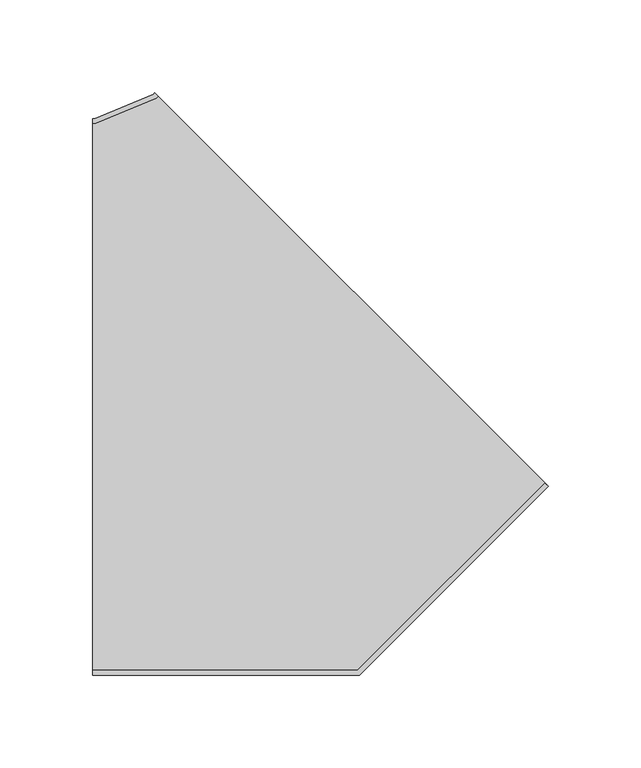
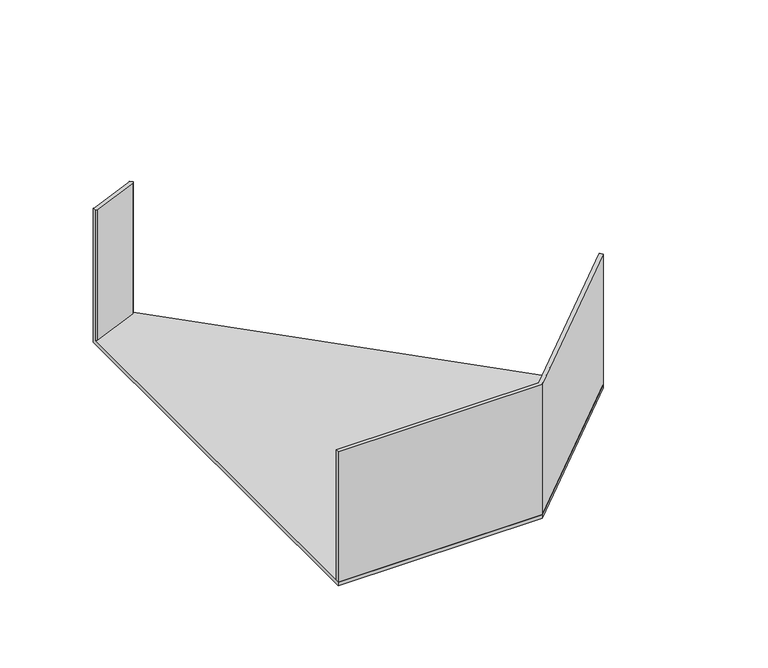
"""IFC4 building model written with IfcOpenShell, lengths in millimetres: cable carrier fitting geometry, BAKS_Horizontal bend : KKJ/KKMJ_H100."""

from ifc_helpers import new_model, si_unit, frame, origin, place, context, project, spatial, polyline, outline, extrude, faceted_brep, source, transform, mapped, element, save


def cable_carrier_fitting_985dcf24(model_context):
    return source(origin(), model_context, "Body", "SolidModel", [
        faceted_brep([(-81.7716447, 147.46, 50.0), (-81.7716447, 150.0, 50.0), (-81.7716447, 150.0, -50.0), (-81.7716447, -150.0, -50.0), (-81.7716447, -150.0, -47.46), (-81.7716447, 147.46, -47.46), (-80.2664073, 147.46, 50.0), (-47.5130451, 161.0268868, 50.0), (-46.4486815, 162.0912504, 50.0), (-48.2447327, 163.8873016, 50.0), (-48.9518395, 163.1801948, 50.0), (-80.7716447, 150.0, 50.0), (-80.7716447, 150.0, -47.46), (-80.7716447, 150.0, -50.0), (-48.9518395, 163.1801948, -50.0), (-48.2447327, 163.8873016, -50.0), (163.8873016, -48.2447327, -50.0), (62.1320344, -150.0, -50.0), (-80.2664073, 147.46, -47.46), (-48.9518395, 163.1801948, -47.46), (-47.5130451, 161.0268868, -47.46), (-46.4486815, 162.0912504, -47.46), (163.8873016, -48.2447327, -47.46), (62.1320344, -150.0, -47.46)], [[[0, 1, 2, 3, 4, 5]], [[1, 0, 6, 7, 8, 9, 10, 11]], [[2, 1, 11, 12, 13]], [[3, 2, 13, 14, 15, 16, 17]], [[6, 0, 5, 18]], [[11, 10, 19, 14, 13, 12]], [[7, 6, 18, 20]], [[9, 8, 21, 22, 16, 15]], [[10, 9, 15, 14, 19]], [[8, 7, 20, 21]], [[4, 23, 22, 21, 20, 18, 5]], [[23, 4, 3, 17]], [[22, 23, 17, 16]]]),
        extrude(outline(polyline([(-81.7716447, -150.0), (-81.7716447, -147.46), (61.0799319, -147.46), (162.0912504, -46.4486815), (163.8873016, -48.2447327), (62.1320344, -150.0), (-81.7716447, -150.0)])), frame((0.0, 0.0, -50.0), z_axis=(0.0, 0.0, 1.0), x_axis=(1.0, 0.0, 0.0)), (0.0, 0.0, 1.0), 100.0),
    ])


if __name__ == "__main__":
    model = new_model("IFC4")
    model_context = context("Model", 3, world=origin())
    ifc_project = project(units=[si_unit("LENGTHUNIT", "METRE", prefix="MILLI")], contexts=[model_context])
    site = spatial("IfcSite", under=ifc_project)
    building = spatial("IfcBuilding", under=site)
    placement = place(None, origin())
    cable_carrier_fitting_shape = cable_carrier_fitting_985dcf24(model_context)
    element("IfcCableCarrierFitting", 1, ObjectType="BAKS_Horizontal bend : KKJ/KKMJ_H100", at=placement, inside=building, context=model_context, shape_type="MappedRepresentation", body=[
        mapped(cable_carrier_fitting_shape, transform((0.0, 0.0, 0.0), x_axis=(1.0, 0.0, 0.0), y_axis=(0.0, 1.0, 0.0), z_axis=(0.0, 0.0, 1.0))),
    ])
    save(model, "model.ifc")
